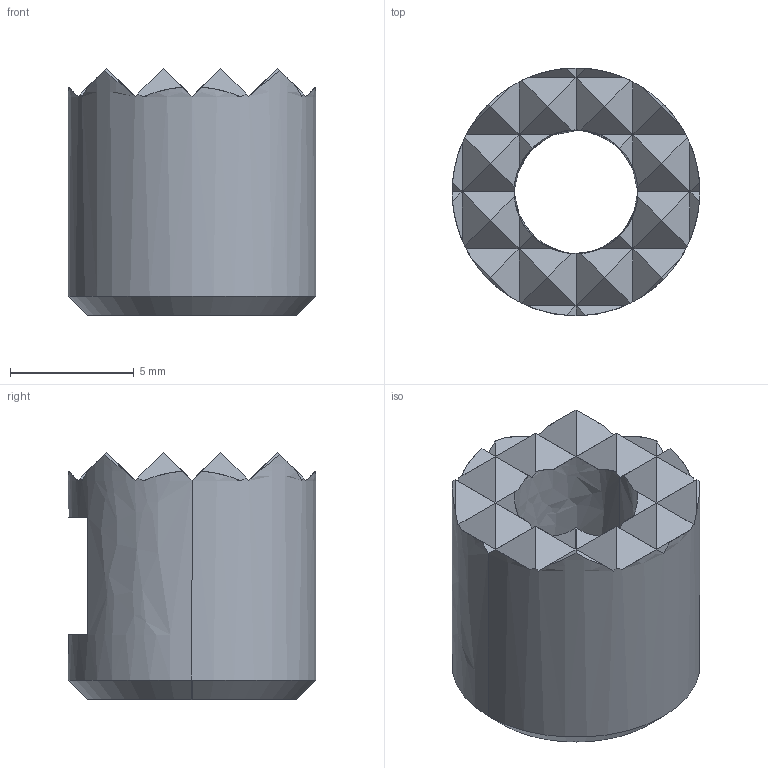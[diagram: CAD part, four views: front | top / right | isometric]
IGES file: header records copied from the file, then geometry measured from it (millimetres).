
Start section: SolidWorks IGES file using analytic representation for surfaces
Global section: file name: X:\11_SW2020-Inv2020\00_全2021-11新製品まで\h\HS-100\hs-100.IGS; native system: SolidWorks 2020; preprocessor: SolidWorks 2020; author: ImaoCorp; date: 211026.101609; units: millimetre
Bounding box: 10 x 10 x 10 mm (x, y, z)
Surface area: 557.7 mm2 (no closed solid volume)
Topology: 0 solids, 0 shells, 84 faces, 478 edges, 478 vertices
Faces by surface type: bspline 76, revolution 8
